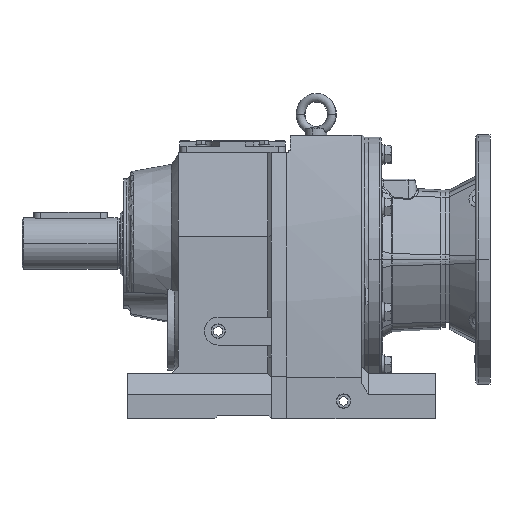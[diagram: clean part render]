
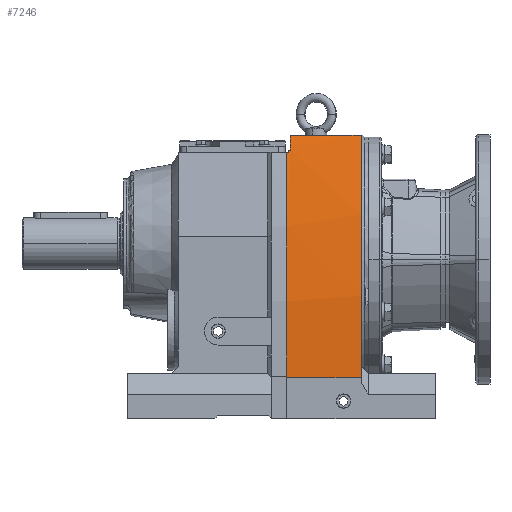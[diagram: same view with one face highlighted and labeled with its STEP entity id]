
A CAD part, front view. The second image highlights one B-rep face of the part: STEP entity #7246.
In plain terms, the highlighted cylindrical face has radius 1000 mm (diameter 2000 mm), a partial arc.
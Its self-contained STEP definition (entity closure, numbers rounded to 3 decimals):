
#3027 = DIRECTION ( 'NONE',  ( 1., 0., 0. ) ) ;
#3028 = CARTESIAN_POINT ( 'NONE',  ( 344., -200., -191.3 ) ) ;
#3099 = DIRECTION ( 'NONE',  ( 0., 0., 1. ) ) ;
#3104 = DIRECTION ( 'NONE',  ( -1., 0., 0. ) ) ;
#3109 = CARTESIAN_POINT ( 'NONE',  ( 238., 799.313, -154.229 ) ) ;
#3817 = CARTESIAN_POINT ( 'NONE',  ( 240., -159.444, 130. ) ) ;
#3819 = CARTESIAN_POINT ( 'NONE',  ( 240., -158.549, 133. ) ) ;
#3821 = CARTESIAN_POINT ( 'NONE',  ( 243., -158.549, 133. ) ) ;
#3824 = CARTESIAN_POINT ( 'NONE',  ( 243., -151.886, 154.35 ) ) ;
#3825 = CARTESIAN_POINT ( 'NONE',  ( 344., -151.886, 154.35 ) ) ;
#3836 = CARTESIAN_POINT ( 'NONE',  ( 344., -200., -191.3 ) ) ;
#3838 = CARTESIAN_POINT ( 'NONE',  ( 238., -159.444, 130. ) ) ;
#3839 = CARTESIAN_POINT ( 'NONE',  ( 238., -200., -191.3 ) ) ;
#5958 = VERTEX_POINT ( 'NONE', #3839 ) ;
#5959 = VERTEX_POINT ( 'NONE', #3838 ) ;
#5961 = VERTEX_POINT ( 'NONE', #3836 ) ;
#5968 = VERTEX_POINT ( 'NONE', #3825 ) ;
#5969 = VERTEX_POINT ( 'NONE', #3824 ) ;
#5972 = VERTEX_POINT ( 'NONE', #3821 ) ;
#5974 = VERTEX_POINT ( 'NONE', #3819 ) ;
#5976 = VERTEX_POINT ( 'NONE', #3817 ) ;
#6768 = VECTOR ( 'NONE', #37544, 1000. ) ;
#6845 = CIRCLE ( 'NONE', #7149, 1000. ) ;
#6855 = VECTOR ( 'NONE', #37636, 1000. ) ;
#6928 = CIRCLE ( 'NONE', #7180, 1000. ) ;
#7100 = VECTOR ( 'NONE', #37571, 1000. ) ;
#7149 = AXIS2_PLACEMENT_3D ( 'NONE', #37628, #37627, #37626 ) ;
#7176 = CIRCLE ( 'NONE', #7183, 1000. ) ;
#7180 = AXIS2_PLACEMENT_3D ( 'NONE', #37658, #37657, #37656 ) ;
#7183 = AXIS2_PLACEMENT_3D ( 'NONE', #37646, #37645, #37643 ) ;
#7246 = ADVANCED_FACE ( 'NONE', ( #16981 ), #16982, .T. ) ;
#7357 = EDGE_CURVE ( 'NONE', #5961, #5968, #6928, .T. ) ;
#7361 = EDGE_CURVE ( 'NONE', #5972, #5969, #7176, .T. ) ;
#7364 = EDGE_CURVE ( 'NONE', #5972, #5974, #17105, .T. ) ;
#7367 = EDGE_CURVE ( 'NONE', #5976, #5974, #6845, .T. ) ;
#7382 = EDGE_CURVE ( 'NONE', #5959, #5976, #17109, .T. ) ;
#7391 = EDGE_CURVE ( 'NONE', #5969, #5968, #17114, .T. ) ;
#9907 = ORIENTED_EDGE ( 'NONE', *, *, #30030, .T. ) ;
#9910 = ORIENTED_EDGE ( 'NONE', *, *, #7361, .F. ) ;
#9911 = ORIENTED_EDGE ( 'NONE', *, *, #7367, .F. ) ;
#9912 = ORIENTED_EDGE ( 'NONE', *, *, #7391, .F. ) ;
#9913 = ORIENTED_EDGE ( 'NONE', *, *, #30025, .F. ) ;
#9914 = ORIENTED_EDGE ( 'NONE', *, *, #7357, .T. ) ;
#9916 = ORIENTED_EDGE ( 'NONE', *, *, #7382, .F. ) ;
#9917 = ORIENTED_EDGE ( 'NONE', *, *, #7364, .T. ) ;
#10001 = VECTOR ( 'NONE', #3027, 1000. ) ;
#10007 = AXIS2_PLACEMENT_3D ( 'NONE', #3109, #3104, #3099 ) ;
#10016 = CIRCLE ( 'NONE', #10007, 1000. ) ;
#16981 = FACE_OUTER_BOUND ( 'NONE', #38589, .T. ) ;
#16982 = CYLINDRICAL_SURFACE ( 'NONE', #36461, 1000. ) ;
#17105 = LINE ( 'NONE', #37637, #6855 ) ;
#17109 = LINE ( 'NONE', #37572, #7100 ) ;
#17114 = LINE ( 'NONE', #37545, #6768 ) ;
#17580 = LINE ( 'NONE', #3028, #10001 ) ;
#30025 = EDGE_CURVE ( 'NONE', #5958, #5959, #10016, .T. ) ;
#30030 = EDGE_CURVE ( 'NONE', #5958, #5961, #17580, .T. ) ;
#36461 = AXIS2_PLACEMENT_3D ( 'NONE', #38163, #38162, #38161 ) ;
#37544 = DIRECTION ( 'NONE',  ( 1., 0., 0. ) ) ;
#37545 = CARTESIAN_POINT ( 'NONE',  ( 238., -151.886, 154.35 ) ) ;
#37571 = DIRECTION ( 'NONE',  ( 1., 0., 0. ) ) ;
#37572 = CARTESIAN_POINT ( 'NONE',  ( 344., -159.444, 130. ) ) ;
#37626 = DIRECTION ( 'NONE',  ( 0., 1., 0. ) ) ;
#37627 = DIRECTION ( 'NONE',  ( -1., 0., 0. ) ) ;
#37628 = CARTESIAN_POINT ( 'NONE',  ( 240., 799.313, -154.229 ) ) ;
#37636 = DIRECTION ( 'NONE',  ( -1., 0., 0. ) ) ;
#37637 = CARTESIAN_POINT ( 'NONE',  ( 243., -158.549, 133. ) ) ;
#37643 = DIRECTION ( 'NONE',  ( 0., 0., 1. ) ) ;
#37645 = DIRECTION ( 'NONE',  ( -1., 0., 0. ) ) ;
#37646 = CARTESIAN_POINT ( 'NONE',  ( 243., 799.313, -154.229 ) ) ;
#37656 = DIRECTION ( 'NONE',  ( 0., 0., 1. ) ) ;
#37657 = DIRECTION ( 'NONE',  ( -1., 0., 0. ) ) ;
#37658 = CARTESIAN_POINT ( 'NONE',  ( 344., 799.313, -154.229 ) ) ;
#38161 = DIRECTION ( 'NONE',  ( 0., 0., 1. ) ) ;
#38162 = DIRECTION ( 'NONE',  ( -1., 0., 0. ) ) ;
#38163 = CARTESIAN_POINT ( 'NONE',  ( 344., 799.313, -154.229 ) ) ;
#38589 = EDGE_LOOP ( 'NONE', ( #9916, #9913, #9907, #9914, #9912, #9910, #9917, #9911 ) ) ;
